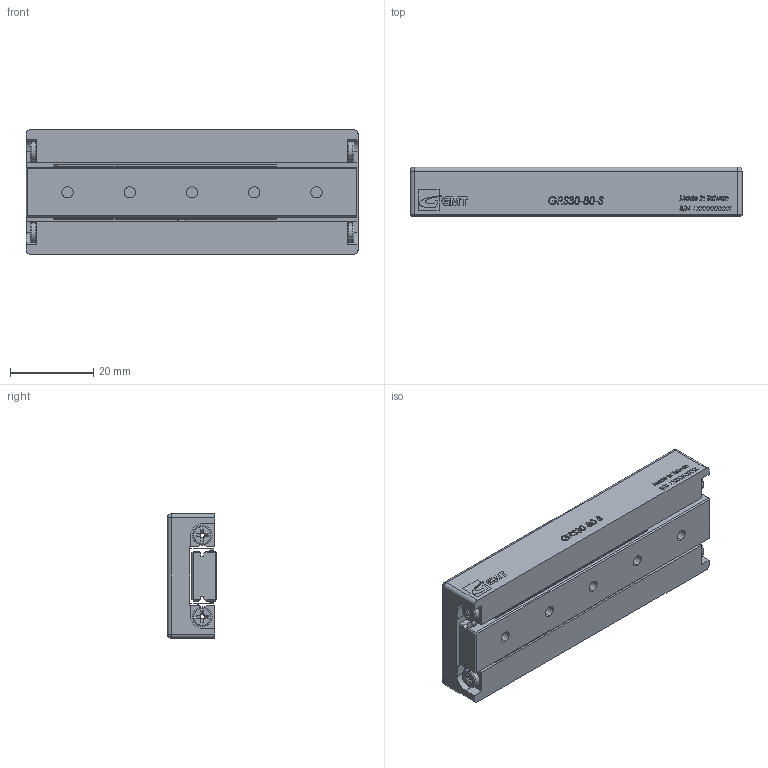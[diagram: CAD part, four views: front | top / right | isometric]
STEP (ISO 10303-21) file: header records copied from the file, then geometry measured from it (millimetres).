
FILE_DESCRIPTION (( 'STEP AP203' ), '1' );
FILE_NAME ('GRS30-80-S.STEP', '2013-12-23T05:33:44', ( '' ), ( '' ), 'SwSTEP 2.0', 'SolidWorks 2013', '' );
FILE_SCHEMA (( 'CONFIG_CONTROL_DESIGN' ));
Length unit declared in the file: millimetre
Products named in the file (1): GRS30-80-S
Bounding box: 80 x 12 x 30 mm (x, y, z)
Surface area: 12134.8 mm2 (no closed solid volume)
Topology: 0 solids, 42 shells, 300 faces, 1834 edges, 1564 vertices
Faces by surface type: plane 211, cylinder 42, torus 16, cone 16, bspline 11, sphere 4
Entity records: 22630 total; most frequent: CARTESIAN_POINT 9578, ORIENTED_EDGE 2388, DIRECTION 2252, EDGE_CURVE 1830, VERTEX_POINT 1564, LINE 1144, VECTOR 1144, AXIS2_PLACEMENT_3D 554
